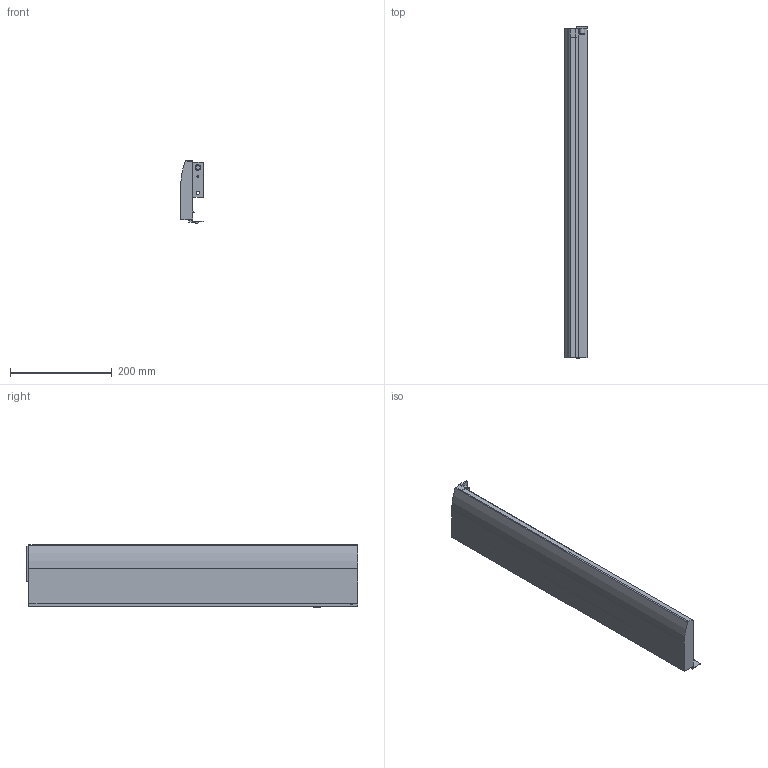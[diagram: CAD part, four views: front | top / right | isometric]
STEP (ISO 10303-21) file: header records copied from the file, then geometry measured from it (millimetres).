
FILE_DESCRIPTION (( 'STEP AP214' ), '1' );
FILE_NAME ('_IMOS_NOVA-Pro_Dekor-H122_DL_NL650_LI.step', '2010-07-14T11:02:33', ( 'grass' ), ( '' ), 'SwSTEP 2.0', 'SolidWorks 2010', '' );
FILE_SCHEMA (( 'AUTOMOTIVE_DESIGN' ));
Length unit declared in the file: millimetre
Products named in the file (1): _IMOS_NOVA-Pro_Dekor-H122_DL_NL650_LI
Bounding box: 44.3 x 652.7 x 122.49 mm (x, y, z)
Volume: 1196264.7 mm3; surface area: 264971.8 mm2
Topology: 1 solids, 1 shells, 84 faces, 227 edges, 150 vertices
Faces by surface type: plane 52, cylinder 27, cone 4, bspline 1
Entity records: 2685 total; most frequent: CARTESIAN_POINT 475, DIRECTION 454, ORIENTED_EDGE 454, EDGE_CURVE 227, LINE 164, VECTOR 164, VERTEX_POINT 150, AXIS2_PLACEMENT_3D 145
